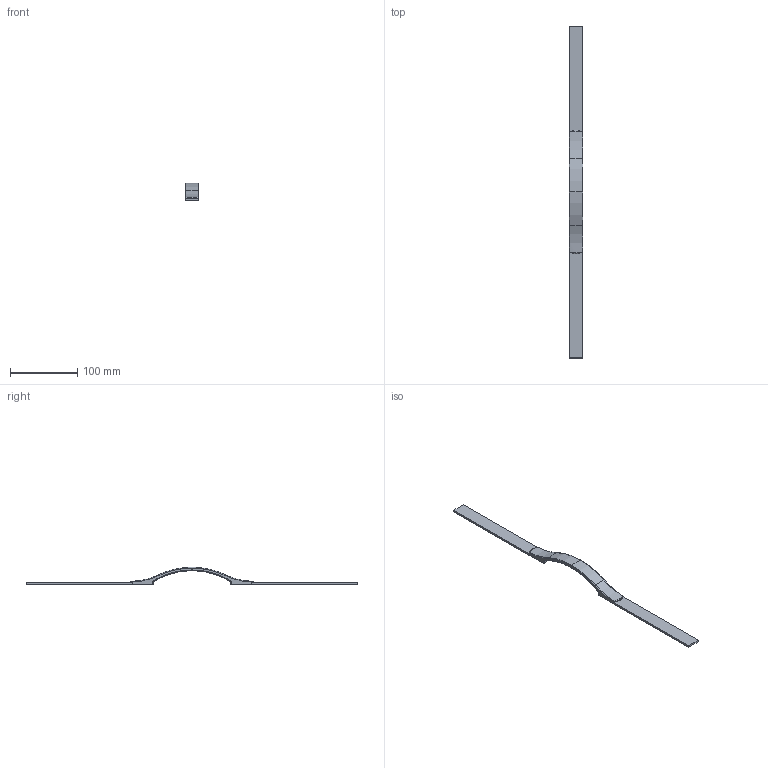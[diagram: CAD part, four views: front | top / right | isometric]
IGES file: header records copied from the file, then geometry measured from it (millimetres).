
Start section: C
Global section: file name: 8089.igs; native system: By Siemens PLM Incorporated; preprocessor: XPlus GENERIC/IGES 16.0.42; author: Author; organization: Title; date: 20260104.140041; units: millimetre
Bounding box: 20 x 495.48 x 26 mm (x, y, z)
Surface area: 25721.8 mm2 (no closed solid volume)
Topology: 0 solids, 0 shells, 70 faces, 332 edges, 332 vertices
Faces by surface type: bspline 70
